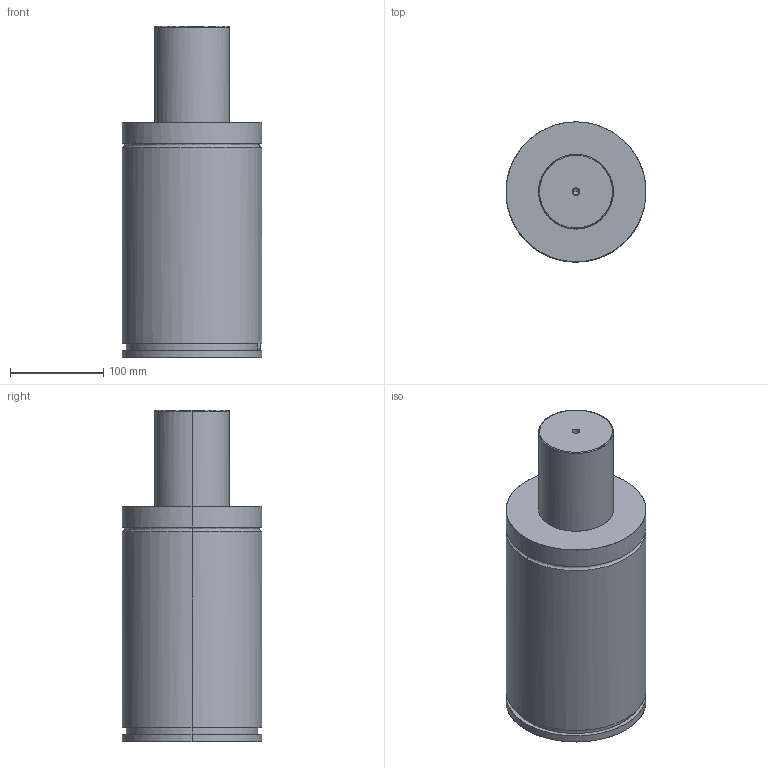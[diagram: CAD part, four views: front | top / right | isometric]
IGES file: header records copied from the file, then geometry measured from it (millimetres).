
Global section: file name: E:\UnigraphicsGraphicData\MISUMI_PRESS-PARTS\IGES\3d_gse150-100_03876_r00.igs; native system: NX V5.0; preprocessor: UGS NX IGES V5.0; author: MISUMI; date: 20110105.160753; units: millimetre
Bounding box: 150 x 150 x 355 mm (x, y, z)
Surface area: 188335.4 mm2 (no closed solid volume)
Topology: 0 solids, 0 shells, 75 faces, 604 edges, 602 vertices
Faces by surface type: bspline 75
